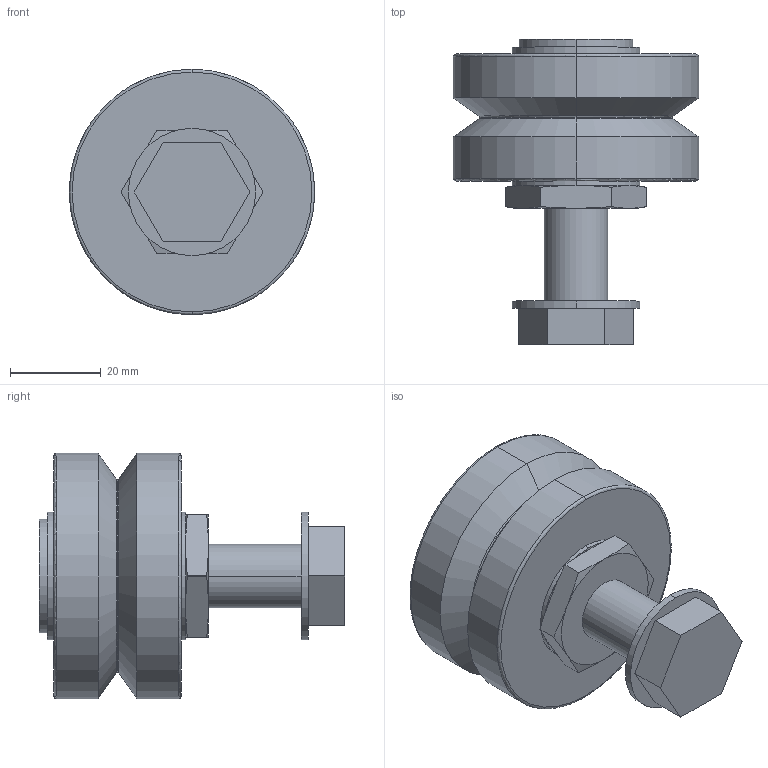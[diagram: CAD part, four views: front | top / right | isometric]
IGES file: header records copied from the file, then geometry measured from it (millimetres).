
Start section: 3D InterOp IGES (Version 21 0 1), Spatial Corp. Copyright (c) 1999-2007.
Global section: file name: RLFJ54CNS.igs; native system: Spatial Corp.; preprocessor: 3D InterOp GENERIC/IGES 3.0; author: Noname; organization: Noname; date: 20220627.163847; units: millimetre
Bounding box: 54 x 67.2 x 54 mm (x, y, z)
Surface area: 23494.6 mm2 (no closed solid volume)
Topology: 0 solids, 0 shells, 69 faces, 344 edges, 344 vertices
Faces by surface type: revolution 40, extrusion 29
